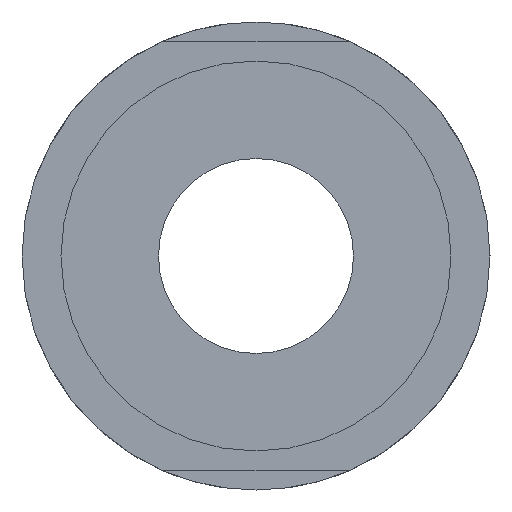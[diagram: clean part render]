
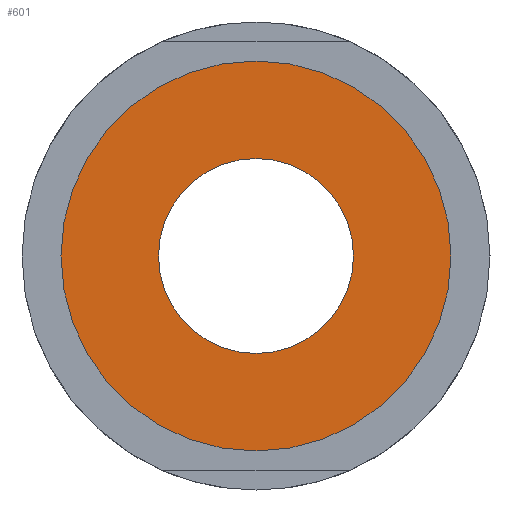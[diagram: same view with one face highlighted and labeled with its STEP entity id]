
A CAD part, left-side view. The second image highlights one B-rep face of the part: STEP entity #601.
In plain terms, the highlighted planar face has unit normal (-1, 0, 0).
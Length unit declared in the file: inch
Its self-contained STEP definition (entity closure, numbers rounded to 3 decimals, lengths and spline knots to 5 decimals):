
#24 = CIRCLE ( 'NONE', #346, 0.3125 ) ;
#43 = VERTEX_POINT ( 'NONE', #580 ) ;
#46 = VERTEX_POINT ( 'NONE', #582 ) ;
#88 = ORIENTED_EDGE ( 'NONE', *, *, #275, .F. ) ;
#93 = CIRCLE ( 'NONE', #322, 0.625 ) ;
#112 = ORIENTED_EDGE ( 'NONE', *, *, #280, .T. ) ;
#132 = FACE_OUTER_BOUND ( 'NONE', #174, .T. ) ;
#138 = ORIENTED_EDGE ( 'NONE', *, *, #259, .T. ) ;
#141 = FACE_BOUND ( 'NONE', #160, .T. ) ;
#148 = VERTEX_POINT ( 'NONE', #522 ) ;
#157 = VERTEX_POINT ( 'NONE', #521 ) ;
#160 = EDGE_LOOP ( 'NONE', ( #88, #205 ) ) ;
#174 = EDGE_LOOP ( 'NONE', ( #112, #138 ) ) ;
#205 = ORIENTED_EDGE ( 'NONE', *, *, #297, .F. ) ;
#213 = CIRCLE ( 'NONE', #353, 0.3125 ) ;
#226 = CIRCLE ( 'NONE', #350, 0.625 ) ;
#259 = EDGE_CURVE ( 'NONE', #157, #43, #93, .T. ) ;
#275 = EDGE_CURVE ( 'NONE', #46, #148, #24, .T. ) ;
#280 = EDGE_CURVE ( 'NONE', #43, #157, #226, .T. ) ;
#297 = EDGE_CURVE ( 'NONE', #148, #46, #213, .T. ) ;
#322 = AXIS2_PLACEMENT_3D ( 'NONE', #528, #373, #532 ) ;
#335 = AXIS2_PLACEMENT_3D ( 'NONE', #484, #483, #482 ) ;
#346 = AXIS2_PLACEMENT_3D ( 'NONE', #534, #591, #592 ) ;
#350 = AXIS2_PLACEMENT_3D ( 'NONE', #535, #563, #560 ) ;
#353 = AXIS2_PLACEMENT_3D ( 'NONE', #382, #568, #547 ) ;
#373 = DIRECTION ( 'NONE',  ( -1., 0., 0. ) ) ;
#382 = CARTESIAN_POINT ( 'NONE',  ( -2.035, 0., 0. ) ) ;
#482 = DIRECTION ( 'NONE',  ( 0., 0., 1. ) ) ;
#483 = DIRECTION ( 'NONE',  ( -1., 0., 0. ) ) ;
#484 = CARTESIAN_POINT ( 'NONE',  ( -2.035, 0.625, 0. ) ) ;
#492 = PLANE ( 'NONE',  #335 ) ;
#521 = CARTESIAN_POINT ( 'NONE',  ( -2.035, 0., 0.625 ) ) ;
#522 = CARTESIAN_POINT ( 'NONE',  ( -2.035, -0.3125, 0. ) ) ;
#528 = CARTESIAN_POINT ( 'NONE',  ( -2.035, 0., 0. ) ) ;
#532 = DIRECTION ( 'NONE',  ( 0., 0., -1. ) ) ;
#534 = CARTESIAN_POINT ( 'NONE',  ( -2.035, 0., 0. ) ) ;
#535 = CARTESIAN_POINT ( 'NONE',  ( -2.035, 0., 0. ) ) ;
#547 = DIRECTION ( 'NONE',  ( 0., 1., 0. ) ) ;
#560 = DIRECTION ( 'NONE',  ( 0., 0., -1. ) ) ;
#563 = DIRECTION ( 'NONE',  ( -1., 0., 0. ) ) ;
#568 = DIRECTION ( 'NONE',  ( -1., 0., 0. ) ) ;
#580 = CARTESIAN_POINT ( 'NONE',  ( -2.035, 0., -0.625 ) ) ;
#582 = CARTESIAN_POINT ( 'NONE',  ( -2.035, 0.3125, 0. ) ) ;
#591 = DIRECTION ( 'NONE',  ( -1., 0., 0. ) ) ;
#592 = DIRECTION ( 'NONE',  ( 0., 1., 0. ) ) ;
#601 = ADVANCED_FACE ( 'NONE', ( #141, #132 ), #492, .T. ) ;
